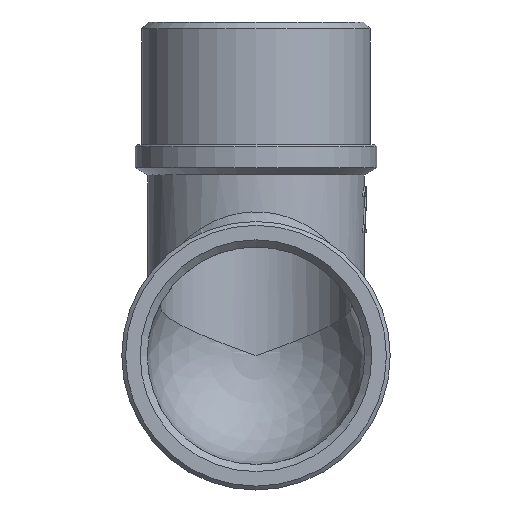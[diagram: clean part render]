
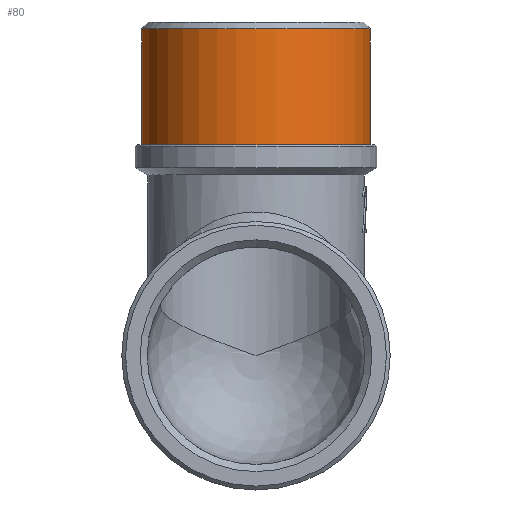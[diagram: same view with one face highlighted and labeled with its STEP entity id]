
A CAD part, front view. The second image highlights one B-rep face of the part: STEP entity #80.
In plain terms, the highlighted cylindrical face has radius 29.807 mm (diameter 59.614 mm), a full revolution.
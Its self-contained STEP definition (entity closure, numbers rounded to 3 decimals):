
#80=ADVANCED_FACE('',(#473,#475),#477,.T.);
#473=FACE_OUTER_BOUND('',#474,.T.);
#474=EDGE_LOOP('',(#3134));
#475=FACE_OUTER_BOUND('',#476,.T.);
#476=EDGE_LOOP('',(#3135));
#477=CYLINDRICAL_SURFACE('',#478,29.807);
#478=AXIS2_PLACEMENT_3D('',#479,#480,#481);
#479=CARTESIAN_POINT('',(0.,0.,55.));
#480=DIRECTION('',(0.,0.,1.));
#481=DIRECTION('',(0.,1.,0.));
#3134=ORIENTED_EDGE('',*,*,#4037,.T.);
#3135=ORIENTED_EDGE('',*,*,#4094,.T.);
#4037=EDGE_CURVE('',#4518,#4518,#4519,.T.);
#4094=EDGE_CURVE('',#4609,#4609,#4610,.T.);
#4518=VERTEX_POINT('',#6130);
#4519=CIRCLE('',#6131,29.807);
#4609=VERTEX_POINT('',#6670);
#4610=CIRCLE('',#6671,29.807);
#6130=CARTESIAN_POINT('',(0.,29.807,85.2));
#6131=AXIS2_PLACEMENT_3D('',#6132,#6133,#6134);
#6132=CARTESIAN_POINT('',(0.,0.,85.2));
#6133=DIRECTION('',(0.,0.,-1.));
#6134=DIRECTION('',(0.,1.,0.));
#6670=CARTESIAN_POINT('',(0.,29.807,55.));
#6671=AXIS2_PLACEMENT_3D('',#6672,#6673,#6674);
#6672=CARTESIAN_POINT('',(0.,0.,55.));
#6673=DIRECTION('',(0.,0.,1.));
#6674=DIRECTION('',(0.,1.,0.));
